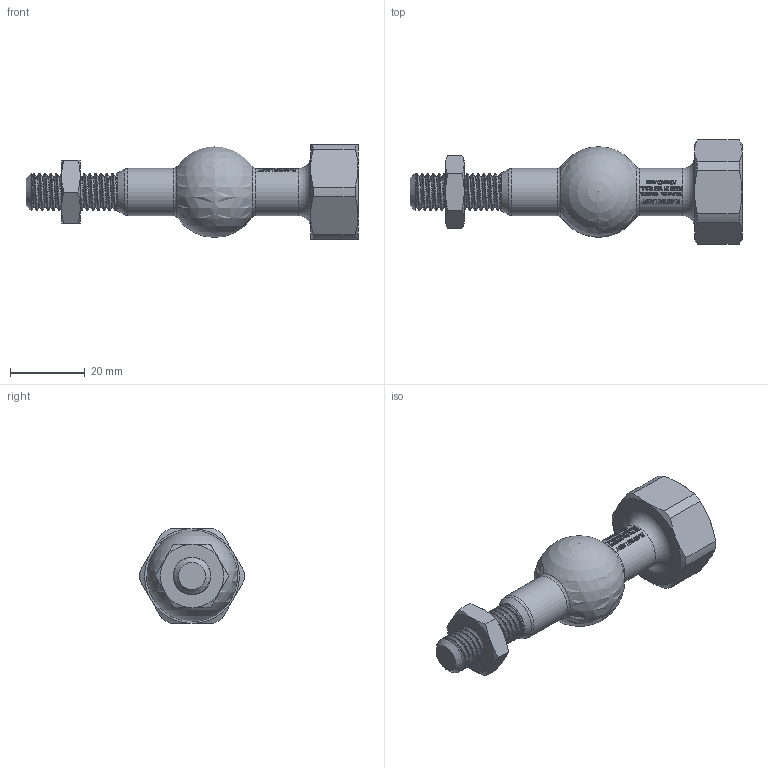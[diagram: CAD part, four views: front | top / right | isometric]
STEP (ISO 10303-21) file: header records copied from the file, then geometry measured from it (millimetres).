
FILE_DESCRIPTION(/* description */ (''),/* implementation_level */ '2;1');
FILE_NAME(/* name */ 'C:\Users\owner\Desktop\PL-ADAPTERS_3D_stp\PL-90DEGBALLADPT.stp',/* time_stamp */ '2017-09-29T14:02:02-04:00',/* author */ ('owner'),/* organization */ (''),/* preprocessor_version */ 'ST-DEVELOPER v16.5',/* originating_system */ 'Autodesk Inventor 2017',/* authorisation */ '');
FILE_SCHEMA (('CONFIG_CONTROL_DESIGN'));
Length unit declared in the file: inch
Products named in the file (3): PL-90DEGBALLADPT; 60038; 60002
Assembly tree (2 placements, depth 2):
  PL-90DEGBALLADPT
    60038
    60002
Bounding box: 88.9 x 27.93 x 25.4 mm (x, y, z)
Volume: 19341.7 mm3; surface area: 8751.9 mm2
Topology: 3 solids, 3 shells, 900 faces, 2401 edges, 1589 vertices
Faces by surface type: plane 379, bspline 376, cylinder 101, cone 38, torus 5, sphere 1
Full cylindrical faces by diameter (mm): 8.042 x2, 8.382 x1, 9 x2, 10 x4, 12.611 x2
Entity records: 41242 total; most frequent: CARTESIAN_POINT 21164, ORIENTED_EDGE 4736, DIRECTION 3040, EDGE_CURVE 2368, VERTEX_POINT 1581, LINE 1088, VECTOR 1088, EDGE_LOOP 1011
